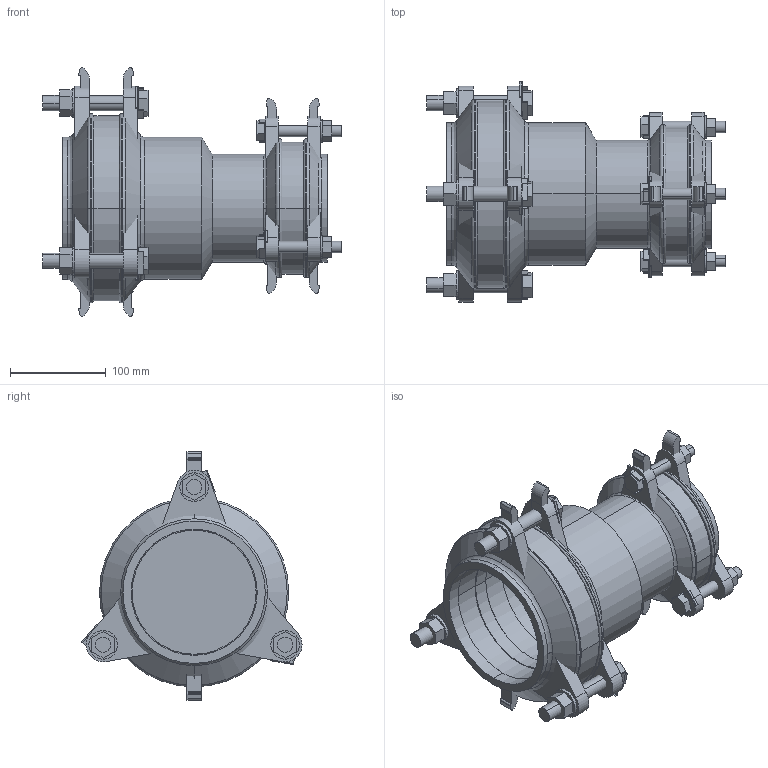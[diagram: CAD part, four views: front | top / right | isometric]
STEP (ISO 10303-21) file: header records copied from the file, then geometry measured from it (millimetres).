
FILE_DESCRIPTION(('STEP AP214'),'1');
FILE_NAME('MJ004439 DN 100-80.STP','2015-02-06T12:04:45',(' '),(' '),'Spatial InterOp 3D',' ',' ');
FILE_SCHEMA(('automotive_design'));
Length unit declared in the file: millimetre
Products named in the file (67): 3D-Objekt
Bounding box: 312 x 230.5 x 260 mm (x, y, z)
Volume: 2186456.9 mm3; surface area: 643744.1 mm2
Topology: 67 solids, 67 shells, 530 faces, 1184 edges, 788 vertices
Faces by surface type: plane 354, cylinder 134, torus 24, cone 18
Entity records: 20571 total; most frequent: DIRECTION 2750, CARTESIAN_POINT 2569, ORIENTED_EDGE 2368, EDGE_CURVE 1184, AXIS2_PLACEMENT_3D 969, LINE 812, VECTOR 812, VERTEX_POINT 788
